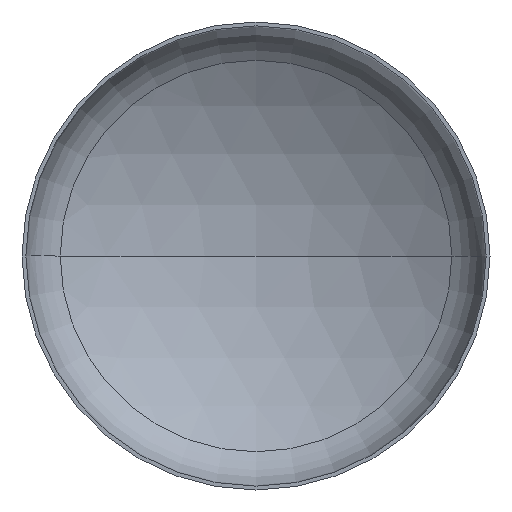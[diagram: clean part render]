
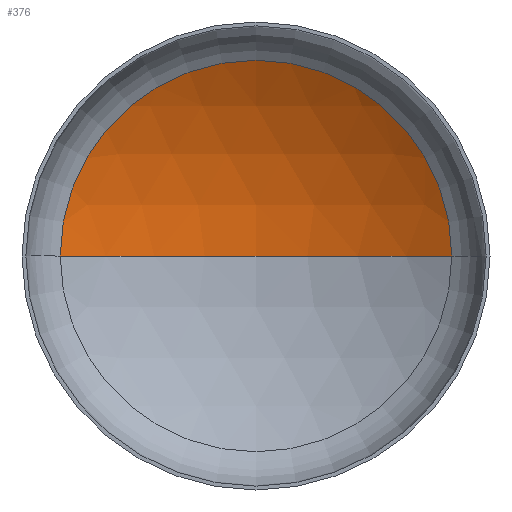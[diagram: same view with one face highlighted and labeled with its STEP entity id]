
A CAD part, front view. The second image highlights one B-rep face of the part: STEP entity #376.
In plain terms, the highlighted spherical face has radius 6000 mm.
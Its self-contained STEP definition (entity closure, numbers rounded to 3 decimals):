
#6 = ORIENTED_EDGE ( 'NONE', *, *, #199, .T. ) ;
#8 = AXIS2_PLACEMENT_3D ( 'NONE', #125, #56, #243 ) ;
#39 = VERTEX_POINT ( 'NONE', #285 ) ;
#48 = ORIENTED_EDGE ( 'NONE', *, *, #203, .F. ) ;
#54 = VERTEX_POINT ( 'NONE', #288 ) ;
#56 = DIRECTION ( 'NONE',  ( 0., 0., -1. ) ) ;
#82 = DIRECTION ( 'NONE',  ( 0., 0., 1. ) ) ;
#90 = SPHERICAL_SURFACE ( 'NONE', #8, 6000. ) ;
#95 = VERTEX_POINT ( 'NONE', #248 ) ;
#108 = EDGE_LOOP ( 'NONE', ( #48, #6, #132 ) ) ;
#125 = CARTESIAN_POINT ( 'NONE',  ( 0., -4010.125, 0. ) ) ;
#126 = AXIS2_PLACEMENT_3D ( 'NONE', #143, #82, #191 ) ;
#130 = AXIS2_PLACEMENT_3D ( 'NONE', #350, #333, #259 ) ;
#132 = ORIENTED_EDGE ( 'NONE', *, *, #198, .T. ) ;
#136 = AXIS2_PLACEMENT_3D ( 'NONE', #183, #189, #190 ) ;
#143 = CARTESIAN_POINT ( 'NONE',  ( 0., -4010.125, 0. ) ) ;
#180 = CIRCLE ( 'NONE', #130, 6000. ) ;
#183 = CARTESIAN_POINT ( 'NONE',  ( 0., 1104.581, 0. ) ) ;
#189 = DIRECTION ( 'NONE',  ( 0., -1., 0. ) ) ;
#190 = DIRECTION ( 'NONE',  ( 1., 0., 0. ) ) ;
#191 = DIRECTION ( 'NONE',  ( 1., 0., 0. ) ) ;
#198 = EDGE_CURVE ( 'NONE', #54, #39, #267, .T. ) ;
#199 = EDGE_CURVE ( 'NONE', #95, #54, #180, .T. ) ;
#203 = EDGE_CURVE ( 'NONE', #95, #39, #368, .T. ) ;
#243 = DIRECTION ( 'NONE',  ( -1., 0., 0. ) ) ;
#248 = CARTESIAN_POINT ( 'NONE',  ( 0., 1989.875, 0. ) ) ;
#259 = DIRECTION ( 'NONE',  ( -1., 0., 0. ) ) ;
#267 = CIRCLE ( 'NONE', #136, 3136.842 ) ;
#285 = CARTESIAN_POINT ( 'NONE',  ( -3136.842, 1104.581, 0. ) ) ;
#288 = CARTESIAN_POINT ( 'NONE',  ( 3136.842, 1104.581, 0. ) ) ;
#333 = DIRECTION ( 'NONE',  ( 0., 0., -1. ) ) ;
#350 = CARTESIAN_POINT ( 'NONE',  ( 0., -4010.125, 0. ) ) ;
#354 = FACE_OUTER_BOUND ( 'NONE', #108, .T. ) ;
#368 = CIRCLE ( 'NONE', #126, 6000. ) ;
#376 = ADVANCED_FACE ( 'NONE', ( #354 ), #90, .F. ) ;
